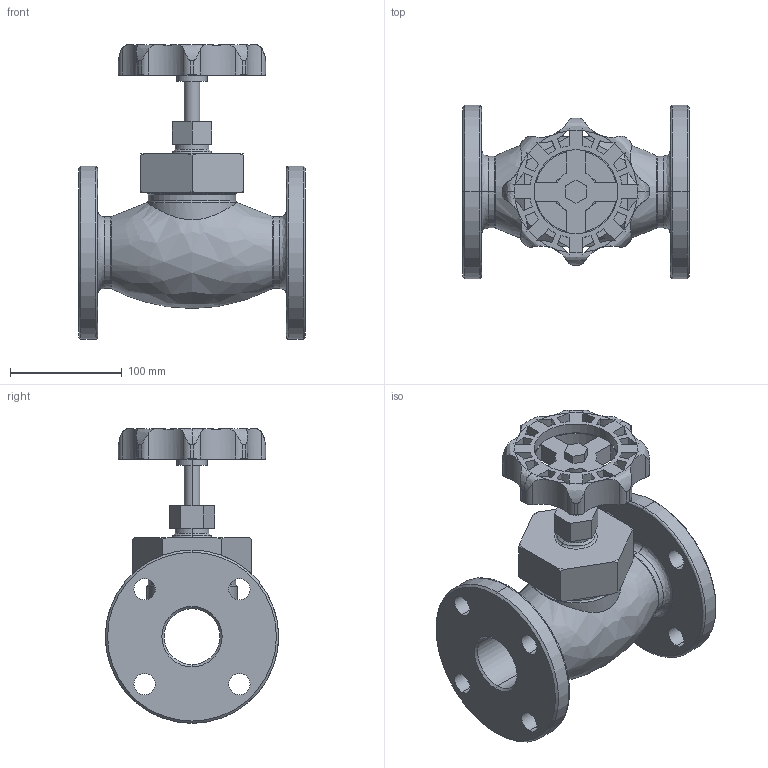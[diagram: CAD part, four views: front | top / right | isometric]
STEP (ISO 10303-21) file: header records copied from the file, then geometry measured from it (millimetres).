
FILE_DESCRIPTION( (''), '2;1');
FILE_NAME ('PC1027.9568.GLV-10F 50A_16877.stp','2025-07-28T11:37:35',(''),(''),'spGate 19.8.4 (****-****-****-****)','','');
FILE_SCHEMA (('AUTOMOTIVE_DESIGN'));
Length unit declared in the file: millimetre
Bounding box: 203 x 155 x 263.5 mm (x, y, z)
Volume: 1703086 mm3; surface area: 239790 mm2
Topology: 1 solids, 1 shells, 237 faces, 684 edges, 444 vertices
Faces by surface type: cylinder 111, plane 72, bspline 54
Entity records: 14552 total; most frequent: CARTESIAN_POINT 3368, ORIENTED_EDGE 1368, DIRECTION 1142, COLOUR_RGB 922, PRESENTATION_STYLE_ASSIGNMENT 922, STYLED_ITEM 922, EDGE_CURVE 684, DRAUGHTING_PRE_DEFINED_CURVE_FONT 684
